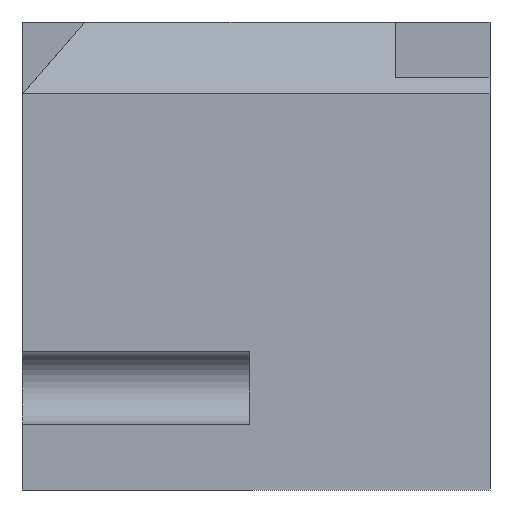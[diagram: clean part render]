
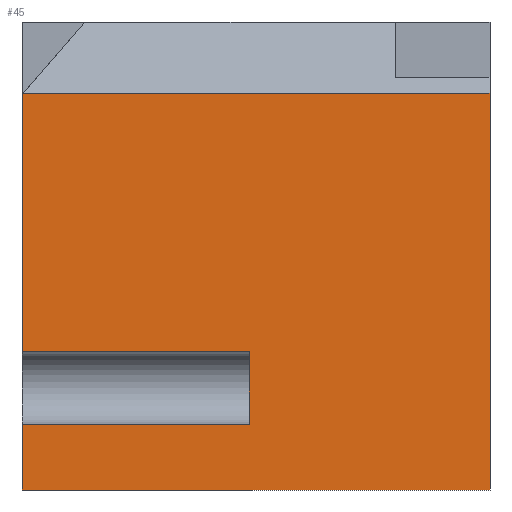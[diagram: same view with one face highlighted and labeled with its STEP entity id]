
A CAD part, front view. The second image highlights one B-rep face of the part: STEP entity #45.
In plain terms, the highlighted planar face has unit normal (0, -1, 0).
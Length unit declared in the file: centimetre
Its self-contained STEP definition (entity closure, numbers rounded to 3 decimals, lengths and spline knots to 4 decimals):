
#7 = PLANE ( 'NONE',  #836 ) ;
#45 = ADVANCED_FACE ( 'NONE', ( #614 ), #7, .F. ) ;
#62 = ORIENTED_EDGE ( 'NONE', *, *, #1333, .F. ) ;
#63 = DIRECTION ( 'NONE',  ( -1., 0., 0. ) ) ;
#99 = CARTESIAN_POINT ( 'NONE',  ( 0., 0., 1000. ) ) ;
#136 = CARTESIAN_POINT ( 'NONE',  ( 1000., 0., 848.2047 ) ) ;
#146 = EDGE_CURVE ( 'NONE', #690, #1166, #428, .T. ) ;
#198 = VECTOR ( 'NONE', #1230, 100. ) ;
#202 = LINE ( 'NONE', #319, #347 ) ;
#219 = EDGE_CURVE ( 'NONE', #1304, #822, #860, .T. ) ;
#224 = VECTOR ( 'NONE', #595, 100. ) ;
#261 = CARTESIAN_POINT ( 'NONE',  ( 485.1427, 0., 295.9162 ) ) ;
#282 = CARTESIAN_POINT ( 'NONE',  ( 0., 0., 0. ) ) ;
#317 = CARTESIAN_POINT ( 'NONE',  ( 0., 0., 295.9162 ) ) ;
#319 = CARTESIAN_POINT ( 'NONE',  ( 485.1427, 0., 140.1736 ) ) ;
#347 = VECTOR ( 'NONE', #635, 100. ) ;
#351 = VECTOR ( 'NONE', #542, 100. ) ;
#364 = CARTESIAN_POINT ( 'NONE',  ( 485.1427, 0., 295.9162 ) ) ;
#398 = EDGE_CURVE ( 'NONE', #483, #750, #803, .T. ) ;
#402 = CARTESIAN_POINT ( 'NONE',  ( 485.1427, 0., 1000. ) ) ;
#404 = ORIENTED_EDGE ( 'NONE', *, *, #146, .T. ) ;
#413 = CARTESIAN_POINT ( 'NONE',  ( 485.1427, 0., 140.1736 ) ) ;
#428 = LINE ( 'NONE', #1042, #1223 ) ;
#446 = EDGE_CURVE ( 'NONE', #858, #483, #1035, .T. ) ;
#483 = VERTEX_POINT ( 'NONE', #824 ) ;
#503 = LINE ( 'NONE', #402, #504 ) ;
#504 = VECTOR ( 'NONE', #600, 100. ) ;
#542 = DIRECTION ( 'NONE',  ( -1., 0., 0. ) ) ;
#553 = CARTESIAN_POINT ( 'NONE',  ( 1000., 0., 0. ) ) ;
#565 = VECTOR ( 'NONE', #594, 100. ) ;
#577 = EDGE_CURVE ( 'NONE', #1219, #858, #202, .T. ) ;
#581 = CARTESIAN_POINT ( 'NONE',  ( 2.1751, 0., 848.2047 ) ) ;
#590 = LINE ( 'NONE', #261, #1025 ) ;
#594 = DIRECTION ( 'NONE',  ( 1., 0., 0. ) ) ;
#595 = DIRECTION ( 'NONE',  ( 0., 0., -1. ) ) ;
#600 = DIRECTION ( 'NONE',  ( 0., 0., -1. ) ) ;
#614 = FACE_OUTER_BOUND ( 'NONE', #995, .T. ) ;
#629 = ORIENTED_EDGE ( 'NONE', *, *, #446, .T. ) ;
#635 = DIRECTION ( 'NONE',  ( -1., 0., 0. ) ) ;
#661 = CARTESIAN_POINT ( 'NONE',  ( 0., 0., 845.6982 ) ) ;
#690 = VERTEX_POINT ( 'NONE', #1156 ) ;
#732 = DIRECTION ( 'NONE',  ( 0., 0., 1. ) ) ;
#744 = DIRECTION ( 'NONE',  ( 0., 0., -1. ) ) ;
#750 = VERTEX_POINT ( 'NONE', #553 ) ;
#759 = DIRECTION ( 'NONE',  ( 0.655, 0., 0.755 ) ) ;
#786 = ORIENTED_EDGE ( 'NONE', *, *, #1062, .F. ) ;
#803 = LINE ( 'NONE', #282, #565 ) ;
#822 = VERTEX_POINT ( 'NONE', #581 ) ;
#824 = CARTESIAN_POINT ( 'NONE',  ( 0., 0., 0. ) ) ;
#836 = AXIS2_PLACEMENT_3D ( 'NONE', #1037, #1256, #732 ) ;
#842 = ORIENTED_EDGE ( 'NONE', *, *, #398, .T. ) ;
#857 = VECTOR ( 'NONE', #759, 100. ) ;
#858 = VERTEX_POINT ( 'NONE', #996 ) ;
#860 = LINE ( 'NONE', #1071, #351 ) ;
#874 = EDGE_CURVE ( 'NONE', #906, #1166, #590, .T. ) ;
#906 = VERTEX_POINT ( 'NONE', #364 ) ;
#912 = ORIENTED_EDGE ( 'NONE', *, *, #219, .T. ) ;
#995 = EDGE_LOOP ( 'NONE', ( #912, #62, #404, #1199, #1030, #1162, #629, #842, #786 ) ) ;
#996 = CARTESIAN_POINT ( 'NONE',  ( 0., 0., 140.1736 ) ) ;
#1002 = LINE ( 'NONE', #1211, #224 ) ;
#1025 = VECTOR ( 'NONE', #63, 100. ) ;
#1030 = ORIENTED_EDGE ( 'NONE', *, *, #1168, .T. ) ;
#1035 = LINE ( 'NONE', #99, #198 ) ;
#1037 = CARTESIAN_POINT ( 'NONE',  ( 0., 0., 1000. ) ) ;
#1042 = CARTESIAN_POINT ( 'NONE',  ( 0., 0., 1000. ) ) ;
#1062 = EDGE_CURVE ( 'NONE', #1304, #750, #1002, .T. ) ;
#1071 = CARTESIAN_POINT ( 'NONE',  ( 0., 0., 848.2047 ) ) ;
#1156 = CARTESIAN_POINT ( 'NONE',  ( 0., 0., 845.6982 ) ) ;
#1162 = ORIENTED_EDGE ( 'NONE', *, *, #577, .T. ) ;
#1166 = VERTEX_POINT ( 'NONE', #317 ) ;
#1168 = EDGE_CURVE ( 'NONE', #906, #1219, #503, .T. ) ;
#1176 = LINE ( 'NONE', #661, #857 ) ;
#1199 = ORIENTED_EDGE ( 'NONE', *, *, #874, .F. ) ;
#1211 = CARTESIAN_POINT ( 'NONE',  ( 1000., 0., 1000. ) ) ;
#1219 = VERTEX_POINT ( 'NONE', #413 ) ;
#1223 = VECTOR ( 'NONE', #744, 100. ) ;
#1230 = DIRECTION ( 'NONE',  ( 0., 0., -1. ) ) ;
#1256 = DIRECTION ( 'NONE',  ( 0., 1., 0. ) ) ;
#1304 = VERTEX_POINT ( 'NONE', #136 ) ;
#1333 = EDGE_CURVE ( 'NONE', #690, #822, #1176, .T. ) ;
